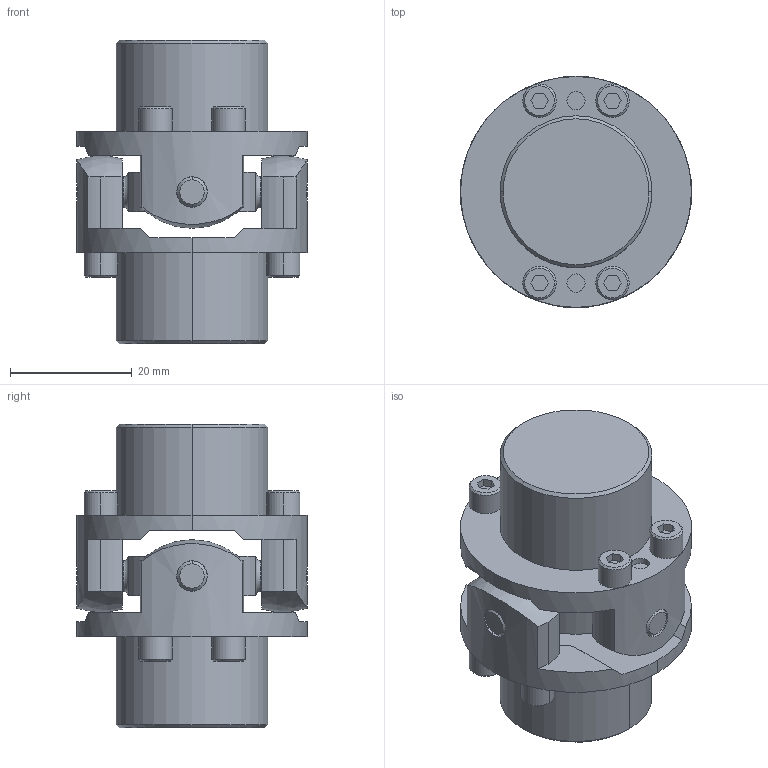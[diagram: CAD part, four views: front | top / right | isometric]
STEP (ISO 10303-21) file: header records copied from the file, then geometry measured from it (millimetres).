
FILE_DESCRIPTION((''),'2;1');
FILE_NAME('UCR-38.stp','2013-06-12T15:38:48',(''),(''),'AutoCAD STEP 2000i','AutoCAD 2000i',', , ');
FILE_SCHEMA(('CONFIG_CONTROL_DESIGN'));
Length unit declared in the file: millimetre
Products named in the file (5): UCR-38; 忣兜1; UCR-3802; UCR-3803; UCR-3804
Assembly tree (4 placements, depth 2):
  UCR-38
    忣兜1
    UCR-3802
    UCR-3803
    UCR-3804
Bounding box: 38 x 38 x 50 mm (x, y, z)
Volume: 28985.7 mm3; surface area: 11460.3 mm2
Topology: 1 solids, 1 shells, 226 faces, 588 edges, 406 vertices
Faces by surface type: plane 108, cylinder 74, cone 32, bspline 8, sphere 4
Entity records: 8317 total; most frequent: CARTESIAN_POINT 2491, DIRECTION 1252, ORIENTED_EDGE 1140, EDGE_CURVE 570, AXIS2_PLACEMENT_3D 469, VERTEX_POINT 372, VECTOR 314, LINE 314
